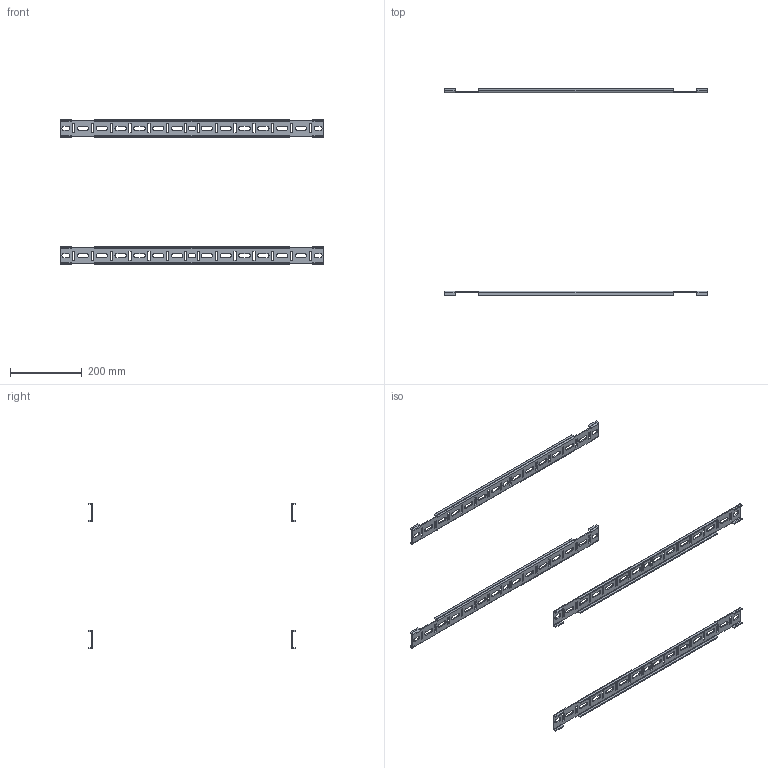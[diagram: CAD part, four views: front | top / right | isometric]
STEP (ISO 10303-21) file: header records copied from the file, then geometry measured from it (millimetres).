
FILE_DESCRIPTION((''),'2;1');
FILE_NAME('SCE-PSK32_PANEL_SUPPORT_KIT_ASM','2010-08-24T',('mikek'),(''),'PRO/ENGINEER BY PARAMETRIC TECHNOLOGY CORPORATION, 2009230','PRO/ENGINEER BY PARAMETRIC TECHNOLOGY CORPORATION, 2009230','');
FILE_SCHEMA(('AUTOMOTIVE_DESIGN { 1 0 10303 214 1 1 1 1 }'));
Length unit declared in the file: inch
Products named in the file (2): SCE-PSK32_PANEL_SUPPORT; SCE-PSK32_PANEL_SUPPORT_KIT_ASM
Assembly tree (4 placements, depth 2):
  SCE-PSK32_PANEL_SUPPORT_KIT_ASM
    SCE-PSK32_PANEL_SUPPORT  x4
Bounding box: 736.6 x 577.06 x 406.4 mm (x, y, z)
Volume: 481093.7 mm3; surface area: 349376.6 mm2
Topology: 4 solids, 4 shells, 856 faces, 2352 edges, 1504 vertices
Faces by surface type: plane 544, cylinder 216, bspline 96
Entity records: 7511 total; most frequent: CARTESIAN_POINT 1854, ORIENTED_EDGE 1176, DIRECTION 1088, EDGE_CURVE 588, VECTOR 448, LINE 448, VERTEX_POINT 376, AXIS2_PLACEMENT_3D 320
